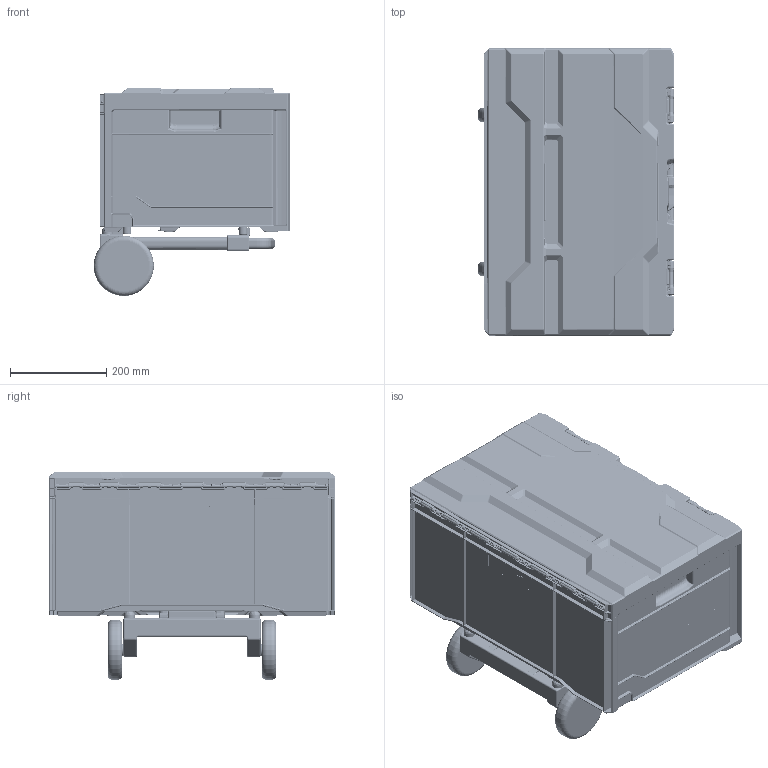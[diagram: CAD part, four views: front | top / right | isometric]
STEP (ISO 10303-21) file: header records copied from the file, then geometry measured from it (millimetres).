
FILE_DESCRIPTION(/* description */ (''),/* implementation_level */ '2;1');
FILE_NAME(/* name */ 'metaBOX_300_XL_withTrolley.stp',/* time_stamp */ '2024-09-04T08:50:30+02:00',/* author */ (''),/* organization */ (''),/* preprocessor_version */ 'ST-DEVELOPER v18.102',/* originating_system */ 'SIEMENS PLM Software NX2206.9200',/* authorisation */ '');
FILE_SCHEMA (('AUTOMOTIVE_DESIGN { 1 0 10303 214 3 1 1 1 }'));
Products named in the file (1): metaBOX_300_XL_withTrolley_objects
Bounding box: 408.64 x 596 x 431.92 mm (x, y, z)
Volume: 6404364.7 mm3; surface area: 2902924.8 mm2
Topology: 11 solids, 11 shells, 16162 faces, 39406 edges, 22581 vertices
Faces by surface type: cylinder 6701, plane 3577, bspline 2303, torus 2296, sphere 679, cone 581, revolution 21, extrusion 4
Full cylindrical faces by diameter (mm): 4 x15, 4.2 x6, 8.3 x4, 23.2 x2, 25 x2, 125 x2
Entity records: 613567 total; most frequent: CARTESIAN_POINT 214028, ORIENTED_EDGE 76558, DIRECTION 57705, EDGE_CURVE 38279, VERTEX_POINT 22466, AXIS2_PLACEMENT_3D 21976, EDGE_LOOP 16595, ADVANCED_FACE 16147
